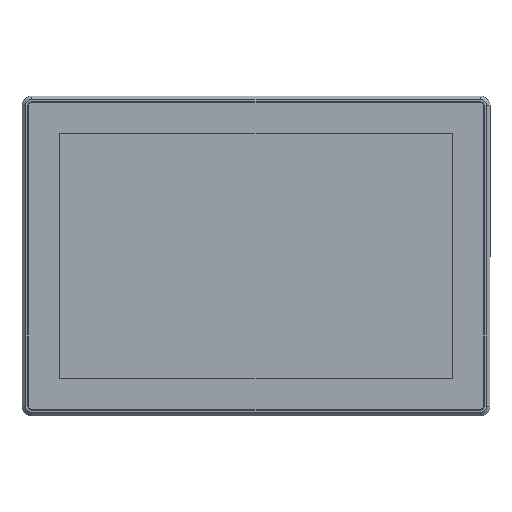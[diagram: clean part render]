
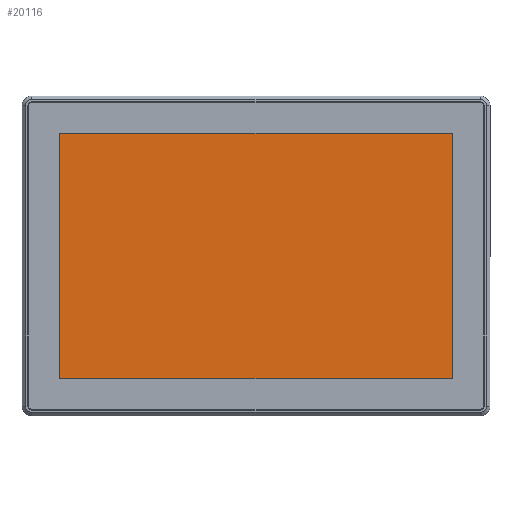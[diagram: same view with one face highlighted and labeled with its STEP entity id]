
A CAD part, top view. The second image highlights one B-rep face of the part: STEP entity #20116.
In plain terms, the highlighted planar face has unit normal (0, 0, 1).
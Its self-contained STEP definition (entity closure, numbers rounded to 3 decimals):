
#20116=ADVANCED_FACE('',(#36446),#36448,.T.);
#36446=FACE_BOUND('',#36447,.T.);
#36447=EDGE_LOOP('',(#51573,#51574,#51575,#51576));
#36448=PLANE('',#36449);
#36449=AXIS2_PLACEMENT_3D('',#36450,#36451,#36452);
#36450=CARTESIAN_POINT('',(-0.4,173.096,12.));
#36451=DIRECTION('',(0.,0.,1.));
#36452=DIRECTION('',(-1.,0.,0.));
#51573=ORIENTED_EDGE('',*,*,#57816,.F.);
#51574=ORIENTED_EDGE('',*,*,#57813,.F.);
#51575=ORIENTED_EDGE('',*,*,#57820,.F.);
#51576=ORIENTED_EDGE('',*,*,#57818,.F.);
#57813=EDGE_CURVE('',#68005,#68006,#68007,.F.);
#57816=EDGE_CURVE('',#68006,#68010,#68011,.F.);
#57818=EDGE_CURVE('',#68010,#68013,#68014,.F.);
#57820=EDGE_CURVE('',#68013,#68005,#68016,.F.);
#68005=VERTEX_POINT('',#91085);
#68006=VERTEX_POINT('',#91086);
#68007=LINE('',#91087,#91088);
#68010=VERTEX_POINT('',#91096);
#68011=LINE('',#91097,#91098);
#68013=VERTEX_POINT('',#91103);
#68014=LINE('',#91104,#91105);
#68016=LINE('',#91110,#91111);
#91085=CARTESIAN_POINT('',(-17.62,19.996,12.));
#91086=CARTESIAN_POINT('',(-235.18,19.996,12.));
#91087=CARTESIAN_POINT('',(-235.18,19.996,12.));
#91088=VECTOR('',#91089,1.);
#91089=DIRECTION('',(1.,0.,0.));
#91096=CARTESIAN_POINT('',(-235.18,156.196,12.));
#91097=CARTESIAN_POINT('',(-235.18,156.196,12.));
#91098=VECTOR('',#91099,1.);
#91099=DIRECTION('',(0.,-1.,0.));
#91103=CARTESIAN_POINT('',(-17.62,156.196,12.));
#91104=CARTESIAN_POINT('',(-17.62,156.196,12.));
#91105=VECTOR('',#91106,1.);
#91106=DIRECTION('',(-1.,0.,0.));
#91110=CARTESIAN_POINT('',(-17.62,19.996,12.));
#91111=VECTOR('',#91112,1.);
#91112=DIRECTION('',(0.,1.,0.));
